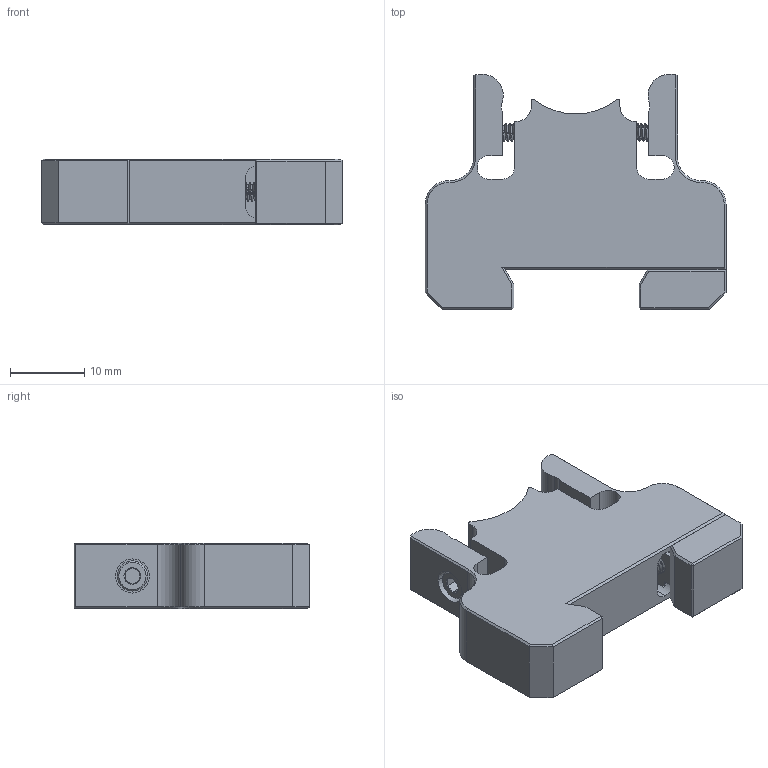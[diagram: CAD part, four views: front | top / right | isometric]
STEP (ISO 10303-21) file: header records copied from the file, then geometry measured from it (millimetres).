
FILE_DESCRIPTION((''),'2;1');
FILE_NAME('LRA16-B_ASM','2024-12-04T15:43:07',('R&D'),(''),'CREO PARAMETRIC BY PTC INC, 2021063','CREO PARAMETRIC BY PTC INC, 2021063','');
FILE_SCHEMA(('CONFIG_CONTROL_DESIGN'));
Products named in the file (9): LRA16-B-A3; LRA16-B-A4; LRA16-B-A5; LRA16-B-A6; LRA16-B-A7; LRA16-B-A9; LRA16-B-A2_ASM; LRA16-B-A1_ASM; LRA16-B_ASM
Assembly tree (8 placements, depth 4):
  LRA16-B_ASM
    LRA16-B-A1_ASM
      LRA16-B-A2_ASM
        LRA16-B-A3
        LRA16-B-A4
        LRA16-B-A5
        LRA16-B-A6
        LRA16-B-A7
        LRA16-B-A9
Bounding box: 40.74 x 31.83 x 8.9 mm (x, y, z)
Volume: 7338.1 mm3; surface area: 4935.4 mm2
Topology: 6 solids, 6 shells, 591 faces, 1587 edges, 1012 vertices
Faces by surface type: cylinder 349, plane 124, bspline 61, cone 53, extrusion 4
Entity records: 51905 total; most frequent: CARTESIAN_POINT 38485, ORIENTED_EDGE 3162, DIRECTION 2108, EDGE_CURVE 1581, VERTEX_POINT 1012, B_SPLINE_CURVE_WITH_KNOTS 742, AXIS2_PLACEMENT_3D 711, VECTOR 686
